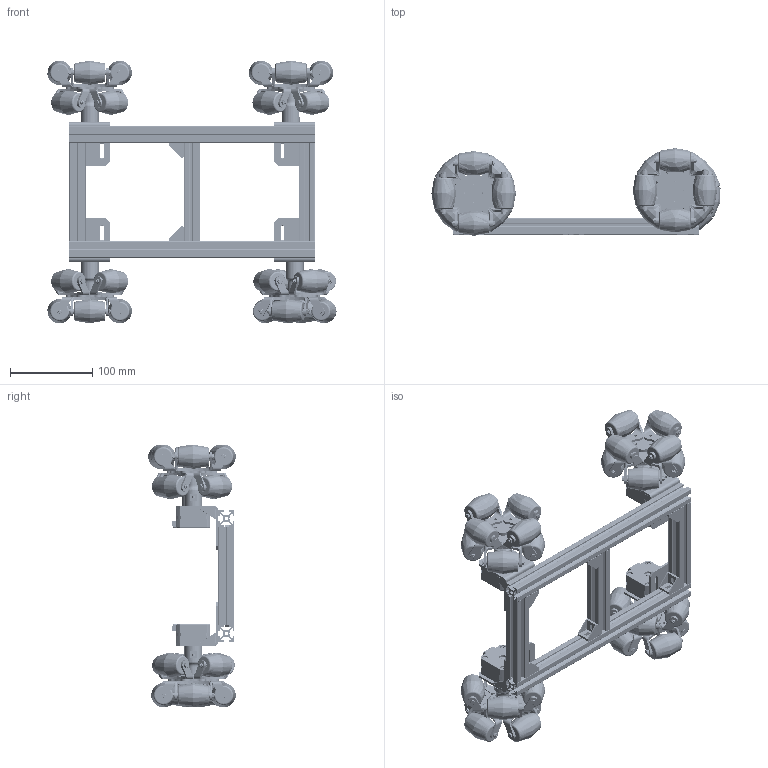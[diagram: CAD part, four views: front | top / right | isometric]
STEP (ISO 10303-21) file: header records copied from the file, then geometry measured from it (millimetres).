
FILE_DESCRIPTION(/* description */ (''),/* implementation_level */ '2;1');
FILE_NAME(/* name */ 'Assieme_drone.stp',/* time_stamp */ '2025-05-11T14:20:02+02:00',/* author */ ('R5800u'),/* organization */ (''),/* preprocessor_version */ 'ST-DEVELOPER v20',/* originating_system */ 'Autodesk Inventor 2025',/* authorisation */ '');
FILE_SCHEMA (('AUTOMOTIVE_DESIGN { 1 0 10303 214 3 1 1 }'));
Length unit declared in the file: millimetre
Products named in the file (34): Assieme_drone; tslot-20x20-1; nema17_pancake; back_plate; front_plate; stator; 625ZZ; rotor; connector; M3_screw; Staffa L NEMA17; tslot-20x20-1_MIR; nema17_pancake_MIR; back_plate_MIR; front_plate_MIR; stator_MIR; 625ZZ_MIR; rotor_MIR; connector_MIR; M3_screw_MIR; Staffa L NEMA17_MIR; tslot-20x20-2; OMNI WHEEL A4; Omni Wheel Spoke A4; Omni Wheel Hub A4 CTR ; Omni Roller on A4 Bracket; Omni Wheel A2 Solid; blocco_ruota; %3% BS 290 - SKF 623; AS 1110 - M3 x 40; AS 1112 - M3  Tipo 5; AS 1237 - 3; SNSD20x20_MIR; SNSD20x20
Assembly tree (66 placements, depth 4):
  Assieme_drone
    nema17_pancake  x2
      back_plate
      front_plate
      stator
      625ZZ
      rotor
      connector
      M3_screw
    Staffa L NEMA17  x2
    tslot-20x20-1
    nema17_pancake_MIR  x2
      back_plate_MIR
      front_plate_MIR
      stator_MIR
      625ZZ_MIR
      rotor_MIR
      connector_MIR
      M3_screw_MIR
    Staffa L NEMA17_MIR  x2
    tslot-20x20-1_MIR
    tslot-20x20-2  x3
    SNSD20x20  x3
    SNSD20x20_MIR  x3
    OMNI WHEEL A4  x4
      Omni Roller on A4 Bracket
        Omni Wheel A2 Solid
        blocco_ruota
        %3% BS 290 - SKF 623  x2
        AS 1110 - M3 x 40
        AS 1112 - M3  Tipo 5
        AS 1237 - 3  x5
      Omni Wheel Spoke A4
      Omni Wheel Hub A4 CTR 
Bounding box: 352.51 x 106.38 x 320.3 mm (x, y, z)
Volume: 1249658.3 mm3; surface area: 656525.8 mm2
Topology: 427 solids, 427 shells, 8901 faces, 23365 edges, 15046 vertices
Faces by surface type: plane 3768, cylinder 2693, torus 1160, cone 760, sphere 416, bspline 104
Full cylindrical faces by diameter (mm): 2.459 x32, 3 x160, 3.2 x160, 3.36 x112, 3.4 x72, 3.5 x16, 3.6 x16, 4.2 x5, 5 x16, 5.1 x4, 5.2 x16, 5.24 x128, 5.5 x32, 6 x192, 6.5 x16, 7 x8, 7.76 x128, 9 x20, 10 x68, 10.1 x64, 12.3 x16, 16 x24, 16.8 x4, 22 x16, 22.1 x4, 30 x4, 31 x8, 31.2 x4
Entity records: 45975 total; most frequent: CARTESIAN_POINT 8698, DIRECTION 7630, ORIENTED_EDGE 7072, EDGE_CURVE 3536, AXIS2_PLACEMENT_3D 2696, VERTEX_POINT 2239, LINE 2238, VECTOR 2238
